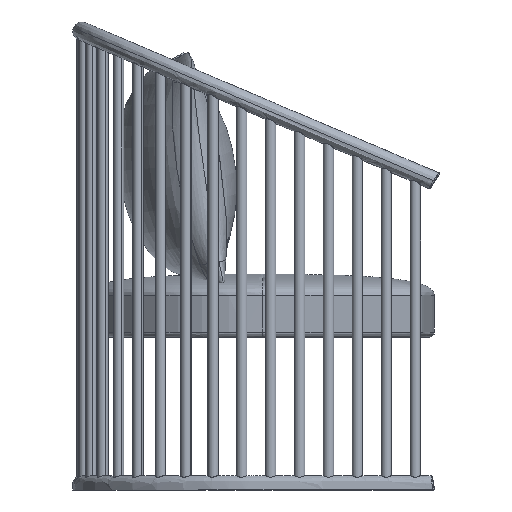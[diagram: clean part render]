
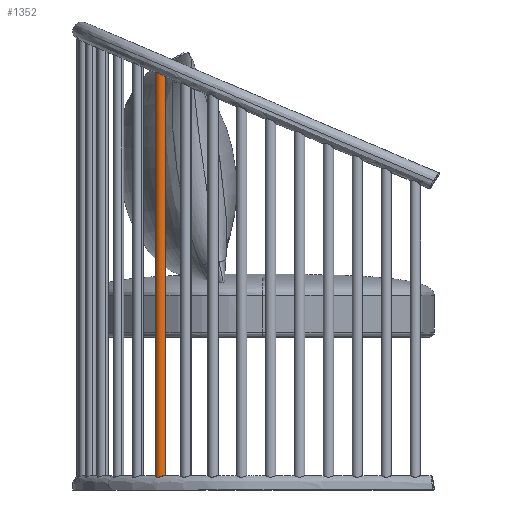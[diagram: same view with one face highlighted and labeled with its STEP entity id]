
A CAD part, left-side view. The second image highlights one B-rep face of the part: STEP entity #1352.
In plain terms, the highlighted free-form (B-spline) face has degree [2, 1] with [5, 2] control points.
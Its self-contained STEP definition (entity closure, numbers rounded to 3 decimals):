
#538=(
BOUNDED_CURVE()
B_SPLINE_CURVE(2,(#37850,#37851,#37852,#37853,#37854),.UNSPECIFIED.,.F.,
 .F.)
B_SPLINE_CURVE_WITH_KNOTS((3,2,3),(0.,15.708,31.416),
 .UNSPECIFIED.)
CURVE()
GEOMETRIC_REPRESENTATION_ITEM()
RATIONAL_B_SPLINE_CURVE((1.,0.707,1.,0.707,1.))
REPRESENTATION_ITEM('')
);
#539=(
BOUNDED_CURVE()
B_SPLINE_CURVE(1,(#37855,#37856),.UNSPECIFIED.,.F.,.F.)
B_SPLINE_CURVE_WITH_KNOTS((2,2),(21.128,902.5),.UNSPECIFIED.)
CURVE()
GEOMETRIC_REPRESENTATION_ITEM()
RATIONAL_B_SPLINE_CURVE((1.,1.))
REPRESENTATION_ITEM('')
);
#540=(
BOUNDED_CURVE()
B_SPLINE_CURVE(2,(#37857,#37858,#37859,#37860,#37861),.UNSPECIFIED.,.F.,
 .F.)
B_SPLINE_CURVE_WITH_KNOTS((3,2,3),(0.,15.708,31.416),
 .UNSPECIFIED.)
CURVE()
GEOMETRIC_REPRESENTATION_ITEM()
RATIONAL_B_SPLINE_CURVE((1.,0.707,1.,0.707,1.))
REPRESENTATION_ITEM('')
);
#541=(
BOUNDED_CURVE()
B_SPLINE_CURVE(1,(#37862,#37863),.UNSPECIFIED.,.F.,.F.)
B_SPLINE_CURVE_WITH_KNOTS((2,2),(21.128,902.5),.UNSPECIFIED.)
CURVE()
GEOMETRIC_REPRESENTATION_ITEM()
RATIONAL_B_SPLINE_CURVE((1.,1.))
REPRESENTATION_ITEM('')
);
#907=(
BOUNDED_SURFACE()
B_SPLINE_SURFACE(2,1,((#37824,#37825),(#37826,#37827),(#37828,#37829),(#37830,
#37831),(#37832,#37833)),.UNSPECIFIED.,.F.,.F.,.F.)
B_SPLINE_SURFACE_WITH_KNOTS((3,2,3),(2,2),(0.,15.708,31.416),
(21.128,902.5),.UNSPECIFIED.)
GEOMETRIC_REPRESENTATION_ITEM()
RATIONAL_B_SPLINE_SURFACE(((1.,1.),(0.707,0.707),
(1.,1.),(0.707,0.707),(1.,1.)))
REPRESENTATION_ITEM('')
SURFACE()
);
#1352=ADVANCED_FACE('',(#1710),#907,.T.);
#1710=FACE_OUTER_BOUND('',#2129,.T.);
#2129=EDGE_LOOP('',(#3374,#3375,#3376,#3377));
#3374=ORIENTED_EDGE('',*,*,#4092,.T.);
#3375=ORIENTED_EDGE('',*,*,#4091,.F.);
#3376=ORIENTED_EDGE('',*,*,#4090,.F.);
#3377=ORIENTED_EDGE('',*,*,#4089,.T.);
#4089=EDGE_CURVE('',#4689,#4691,#538,.T.);
#4090=EDGE_CURVE('',#4689,#4690,#539,.T.);
#4091=EDGE_CURVE('',#4690,#4692,#540,.T.);
#4092=EDGE_CURVE('',#4691,#4692,#541,.T.);
#4689=VERTEX_POINT('',#37846);
#4690=VERTEX_POINT('',#37847);
#4691=VERTEX_POINT('',#37848);
#4692=VERTEX_POINT('',#37849);
#37824=CARTESIAN_POINT('',(-284.688,511.855,808.015));
#37825=CARTESIAN_POINT('',(-284.688,511.855,10.));
#37826=CARTESIAN_POINT('',(-293.021,517.383,808.015));
#37827=CARTESIAN_POINT('',(-293.021,517.383,10.));
#37828=CARTESIAN_POINT('',(-287.493,525.716,808.015));
#37829=CARTESIAN_POINT('',(-287.493,525.716,10.));
#37830=CARTESIAN_POINT('',(-281.965,534.049,808.015));
#37831=CARTESIAN_POINT('',(-281.965,534.049,10.));
#37832=CARTESIAN_POINT('',(-273.632,528.521,808.015));
#37833=CARTESIAN_POINT('',(-273.632,528.521,10.));
#37846=CARTESIAN_POINT('',(-284.688,511.855,808.015));
#37847=CARTESIAN_POINT('',(-284.688,511.855,10.));
#37848=CARTESIAN_POINT('',(-273.632,528.521,808.015));
#37849=CARTESIAN_POINT('',(-273.632,528.521,10.));
#37850=CARTESIAN_POINT('',(-284.688,511.855,808.015));
#37851=CARTESIAN_POINT('',(-293.021,517.383,808.015));
#37852=CARTESIAN_POINT('',(-287.493,525.716,808.015));
#37853=CARTESIAN_POINT('',(-281.965,534.049,808.015));
#37854=CARTESIAN_POINT('',(-273.632,528.521,808.015));
#37855=CARTESIAN_POINT('',(-284.688,511.855,808.015));
#37856=CARTESIAN_POINT('',(-284.688,511.855,10.));
#37857=CARTESIAN_POINT('',(-284.688,511.855,10.));
#37858=CARTESIAN_POINT('',(-293.021,517.383,10.));
#37859=CARTESIAN_POINT('',(-287.493,525.716,10.));
#37860=CARTESIAN_POINT('',(-281.965,534.049,10.));
#37861=CARTESIAN_POINT('',(-273.632,528.521,10.));
#37862=CARTESIAN_POINT('',(-273.632,528.521,808.015));
#37863=CARTESIAN_POINT('',(-273.632,528.521,10.));
